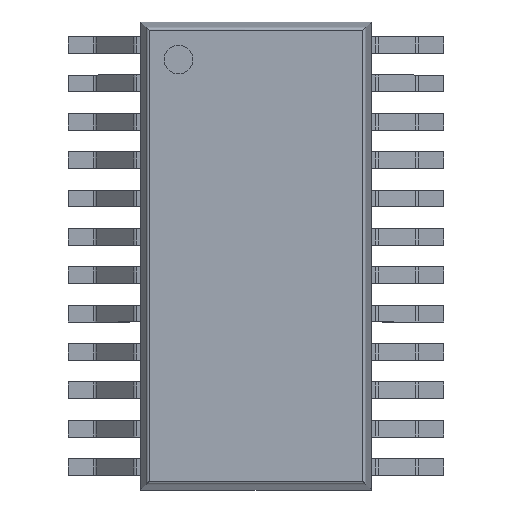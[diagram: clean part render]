
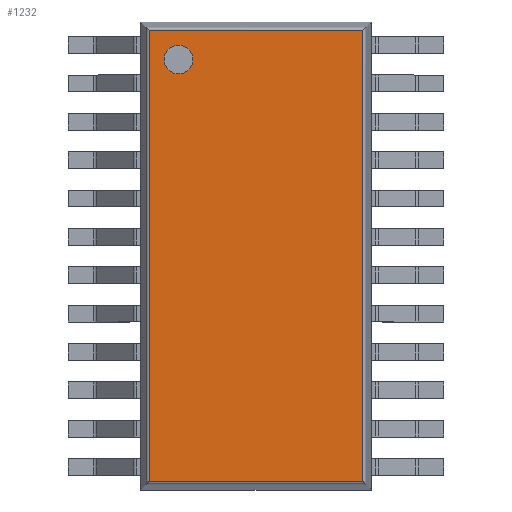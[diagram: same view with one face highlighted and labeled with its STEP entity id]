
A CAD part, top view. The second image highlights one B-rep face of the part: STEP entity #1232.
In plain terms, the highlighted planar face has unit normal (0, 0, 1).
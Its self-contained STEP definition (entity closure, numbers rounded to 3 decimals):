
#829 = CYLINDRICAL_SURFACE('',#830,0.04);
#830 = AXIS2_PLACEMENT_3D('',#831,#832,#833);
#831 = CARTESIAN_POINT('',(-1.391,-2.975,1.06));
#832 = DIRECTION('',(0.,1.,0.));
#833 = DIRECTION('',(-0.988,0.,0.157));
#971 = CYLINDRICAL_SURFACE('',#972,0.04);
#972 = AXIS2_PLACEMENT_3D('',#973,#974,#975);
#973 = CARTESIAN_POINT('',(-1.425,-2.941,1.06));
#974 = DIRECTION('',(1.,0.,0.));
#975 = DIRECTION('',(0.,-0.988,0.157));
#987 = VERTEX_POINT('',#988);
#988 = CARTESIAN_POINT('',(-1.391,-2.941,1.1));
#1022 = EDGE_CURVE('',#987,#1023,#1025,.T.);
#1023 = VERTEX_POINT('',#1024);
#1024 = CARTESIAN_POINT('',(-1.391,2.941,1.1));
#1025 = SURFACE_CURVE('',#1026,(#1030,#1037),.PCURVE_S1.);
#1026 = LINE('',#1027,#1028);
#1027 = CARTESIAN_POINT('',(-1.391,-2.975,1.1));
#1028 = VECTOR('',#1029,1.);
#1029 = DIRECTION('',(0.,1.,0.));
#1030 = PCURVE('',#829,#1031);
#1031 = DEFINITIONAL_REPRESENTATION('',(#1032),#1036);
#1032 = LINE('',#1033,#1034);
#1033 = CARTESIAN_POINT('',(1.413,0.));
#1034 = VECTOR('',#1035,1.);
#1035 = DIRECTION('',(0.,1.));
#1036 = ( GEOMETRIC_REPRESENTATION_CONTEXT(2) 
PARAMETRIC_REPRESENTATION_CONTEXT() REPRESENTATION_CONTEXT('2D SPACE',''
  ) );
#1037 = PCURVE('',#1038,#1043);
#1038 = PLANE('',#1039);
#1039 = AXIS2_PLACEMENT_3D('',#1040,#1041,#1042);
#1040 = CARTESIAN_POINT('',(-1.5,-3.05,1.1));
#1041 = DIRECTION('',(0.,0.,1.));
#1042 = DIRECTION('',(1.,0.,0.));
#1043 = DEFINITIONAL_REPRESENTATION('',(#1044),#1048);
#1044 = LINE('',#1045,#1046);
#1045 = CARTESIAN_POINT('',(0.109,0.075));
#1046 = VECTOR('',#1047,1.);
#1047 = DIRECTION('',(0.,1.));
#1048 = ( GEOMETRIC_REPRESENTATION_CONTEXT(2) 
PARAMETRIC_REPRESENTATION_CONTEXT() REPRESENTATION_CONTEXT('2D SPACE',''
  ) );
#1071 = CYLINDRICAL_SURFACE('',#1072,0.04);
#1072 = AXIS2_PLACEMENT_3D('',#1073,#1074,#1075);
#1073 = CARTESIAN_POINT('',(-1.425,2.941,1.06));
#1074 = DIRECTION('',(1.,0.,0.));
#1075 = DIRECTION('',(0.,0.,1.));
#1159 = CYLINDRICAL_SURFACE('',#1160,0.04);
#1160 = AXIS2_PLACEMENT_3D('',#1161,#1162,#1163);
#1161 = CARTESIAN_POINT('',(1.391,-2.975,1.06));
#1162 = DIRECTION('',(0.,1.,0.));
#1163 = DIRECTION('',(0.,0.,1.));
#1175 = EDGE_CURVE('',#987,#1176,#1178,.T.);
#1176 = VERTEX_POINT('',#1177);
#1177 = CARTESIAN_POINT('',(1.391,-2.941,1.1));
#1178 = SURFACE_CURVE('',#1179,(#1183,#1190),.PCURVE_S1.);
#1179 = LINE('',#1180,#1181);
#1180 = CARTESIAN_POINT('',(-1.425,-2.941,1.1));
#1181 = VECTOR('',#1182,1.);
#1182 = DIRECTION('',(1.,0.,0.));
#1183 = PCURVE('',#971,#1184);
#1184 = DEFINITIONAL_REPRESENTATION('',(#1185),#1189);
#1185 = LINE('',#1186,#1187);
#1186 = CARTESIAN_POINT('',(-1.413,0.));
#1187 = VECTOR('',#1188,1.);
#1188 = DIRECTION('',(-0.,1.));
#1189 = ( GEOMETRIC_REPRESENTATION_CONTEXT(2) 
PARAMETRIC_REPRESENTATION_CONTEXT() REPRESENTATION_CONTEXT('2D SPACE',''
  ) );
#1190 = PCURVE('',#1038,#1191);
#1191 = DEFINITIONAL_REPRESENTATION('',(#1192),#1196);
#1192 = LINE('',#1193,#1194);
#1193 = CARTESIAN_POINT('',(0.075,0.109));
#1194 = VECTOR('',#1195,1.);
#1195 = DIRECTION('',(1.,0.));
#1196 = ( GEOMETRIC_REPRESENTATION_CONTEXT(2) 
PARAMETRIC_REPRESENTATION_CONTEXT() REPRESENTATION_CONTEXT('2D SPACE',''
  ) );
#1232 = ADVANCED_FACE('',(#1233,#1281),#1038,.T.);
#1233 = FACE_BOUND('',#1234,.T.);
#1234 = EDGE_LOOP('',(#1235,#1236,#1237,#1260));
#1235 = ORIENTED_EDGE('',*,*,#1022,.F.);
#1236 = ORIENTED_EDGE('',*,*,#1175,.T.);
#1237 = ORIENTED_EDGE('',*,*,#1238,.T.);
#1238 = EDGE_CURVE('',#1176,#1239,#1241,.T.);
#1239 = VERTEX_POINT('',#1240);
#1240 = CARTESIAN_POINT('',(1.391,2.941,1.1));
#1241 = SURFACE_CURVE('',#1242,(#1246,#1253),.PCURVE_S1.);
#1242 = LINE('',#1243,#1244);
#1243 = CARTESIAN_POINT('',(1.391,-2.975,1.1));
#1244 = VECTOR('',#1245,1.);
#1245 = DIRECTION('',(0.,1.,0.));
#1246 = PCURVE('',#1038,#1247);
#1247 = DEFINITIONAL_REPRESENTATION('',(#1248),#1252);
#1248 = LINE('',#1249,#1250);
#1249 = CARTESIAN_POINT('',(2.891,0.075));
#1250 = VECTOR('',#1251,1.);
#1251 = DIRECTION('',(0.,1.));
#1252 = ( GEOMETRIC_REPRESENTATION_CONTEXT(2) 
PARAMETRIC_REPRESENTATION_CONTEXT() REPRESENTATION_CONTEXT('2D SPACE',''
  ) );
#1253 = PCURVE('',#1159,#1254);
#1254 = DEFINITIONAL_REPRESENTATION('',(#1255),#1259);
#1255 = LINE('',#1256,#1257);
#1256 = CARTESIAN_POINT('',(0.,0.));
#1257 = VECTOR('',#1258,1.);
#1258 = DIRECTION('',(0.,1.));
#1259 = ( GEOMETRIC_REPRESENTATION_CONTEXT(2) 
PARAMETRIC_REPRESENTATION_CONTEXT() REPRESENTATION_CONTEXT('2D SPACE',''
  ) );
#1260 = ORIENTED_EDGE('',*,*,#1261,.F.);
#1261 = EDGE_CURVE('',#1023,#1239,#1262,.T.);
#1262 = SURFACE_CURVE('',#1263,(#1267,#1274),.PCURVE_S1.);
#1263 = LINE('',#1264,#1265);
#1264 = CARTESIAN_POINT('',(-1.425,2.941,1.1));
#1265 = VECTOR('',#1266,1.);
#1266 = DIRECTION('',(1.,0.,0.));
#1267 = PCURVE('',#1038,#1268);
#1268 = DEFINITIONAL_REPRESENTATION('',(#1269),#1273);
#1269 = LINE('',#1270,#1271);
#1270 = CARTESIAN_POINT('',(0.075,5.991));
#1271 = VECTOR('',#1272,1.);
#1272 = DIRECTION('',(1.,0.));
#1273 = ( GEOMETRIC_REPRESENTATION_CONTEXT(2) 
PARAMETRIC_REPRESENTATION_CONTEXT() REPRESENTATION_CONTEXT('2D SPACE',''
  ) );
#1274 = PCURVE('',#1071,#1275);
#1275 = DEFINITIONAL_REPRESENTATION('',(#1276),#1280);
#1276 = LINE('',#1277,#1278);
#1277 = CARTESIAN_POINT('',(-0.,0.));
#1278 = VECTOR('',#1279,1.);
#1279 = DIRECTION('',(-0.,1.));
#1280 = ( GEOMETRIC_REPRESENTATION_CONTEXT(2) 
PARAMETRIC_REPRESENTATION_CONTEXT() REPRESENTATION_CONTEXT('2D SPACE',''
  ) );
#1281 = FACE_BOUND('',#1282,.T.);
#1282 = EDGE_LOOP('',(#1283));
#1283 = ORIENTED_EDGE('',*,*,#1284,.F.);
#1284 = EDGE_CURVE('',#1285,#1285,#1287,.T.);
#1285 = VERTEX_POINT('',#1286);
#1286 = CARTESIAN_POINT('',(-0.823,2.56,1.1));
#1287 = SURFACE_CURVE('',#1288,(#1293,#1300),.PCURVE_S1.);
#1288 = CIRCLE('',#1289,0.188);
#1289 = AXIS2_PLACEMENT_3D('',#1290,#1291,#1292);
#1290 = CARTESIAN_POINT('',(-1.01,2.56,1.1));
#1291 = DIRECTION('',(0.,0.,1.));
#1292 = DIRECTION('',(1.,0.,0.));
#1293 = PCURVE('',#1038,#1294);
#1294 = DEFINITIONAL_REPRESENTATION('',(#1295),#1299);
#1295 = CIRCLE('',#1296,0.188);
#1296 = AXIS2_PLACEMENT_2D('',#1297,#1298);
#1297 = CARTESIAN_POINT('',(0.49,5.61));
#1298 = DIRECTION('',(1.,0.));
#1299 = ( GEOMETRIC_REPRESENTATION_CONTEXT(2) 
PARAMETRIC_REPRESENTATION_CONTEXT() REPRESENTATION_CONTEXT('2D SPACE',''
  ) );
#1300 = PCURVE('',#1301,#1306);
#1301 = CYLINDRICAL_SURFACE('',#1302,0.188);
#1302 = AXIS2_PLACEMENT_3D('',#1303,#1304,#1305);
#1303 = CARTESIAN_POINT('',(-1.01,2.56,0.99));
#1304 = DIRECTION('',(0.,0.,1.));
#1305 = DIRECTION('',(1.,0.,0.));
#1306 = DEFINITIONAL_REPRESENTATION('',(#1307),#1310);
#1307 = B_SPLINE_CURVE_WITH_KNOTS('',1,(#1308,#1309),.UNSPECIFIED.,.F.,
  .F.,(2,2),(0.,6.283),.PIECEWISE_BEZIER_KNOTS.);
#1308 = CARTESIAN_POINT('',(0.,0.11));
#1309 = CARTESIAN_POINT('',(6.283,0.11));
#1310 = ( GEOMETRIC_REPRESENTATION_CONTEXT(2) 
PARAMETRIC_REPRESENTATION_CONTEXT() REPRESENTATION_CONTEXT('2D SPACE',''
  ) );
